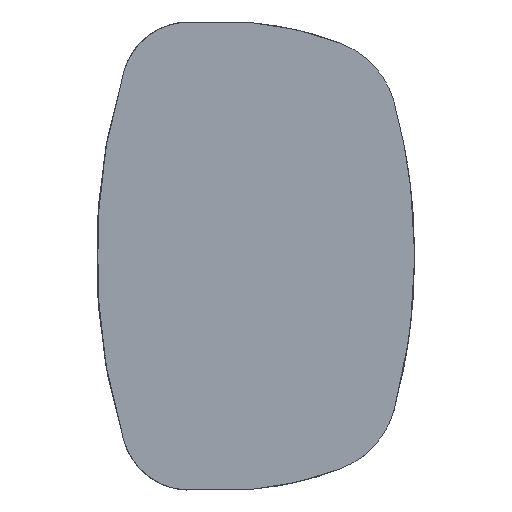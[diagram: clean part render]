
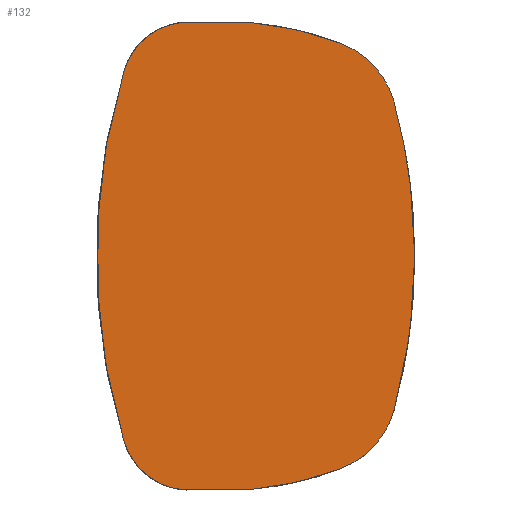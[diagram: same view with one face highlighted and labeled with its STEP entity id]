
A CAD part, top view. The second image highlights one B-rep face of the part: STEP entity #132.
In plain terms, the highlighted planar face has unit normal (0, 0, 1).
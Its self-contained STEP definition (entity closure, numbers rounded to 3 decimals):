
#132=ADVANCED_FACE('',(#402),#4258,.T.);
#402=FACE_OUTER_BOUND('',#672,.T.);
#672=EDGE_LOOP('',(#1019,#1020,#1021,#1022,#1023,#1024,#1025,#1026,#1027,
#1028,#1029));
#1019=ORIENTED_EDGE('',*,*,#2314,.T.);
#1020=ORIENTED_EDGE('',*,*,#2316,.T.);
#1021=ORIENTED_EDGE('',*,*,#2318,.T.);
#1022=ORIENTED_EDGE('',*,*,#2320,.T.);
#1023=ORIENTED_EDGE('',*,*,#2322,.T.);
#1024=ORIENTED_EDGE('',*,*,#2324,.T.);
#1025=ORIENTED_EDGE('',*,*,#2326,.T.);
#1026=ORIENTED_EDGE('',*,*,#2328,.T.);
#1027=ORIENTED_EDGE('',*,*,#2330,.T.);
#1028=ORIENTED_EDGE('',*,*,#2332,.T.);
#1029=ORIENTED_EDGE('',*,*,#2334,.T.);
#2314=EDGE_CURVE('',#3651,#3652,#3374,.T.);
#2316=EDGE_CURVE('',#3652,#3653,#3375,.T.);
#2318=EDGE_CURVE('',#3653,#3654,#3376,.T.);
#2320=EDGE_CURVE('',#3654,#3655,#3377,.T.);
#2322=EDGE_CURVE('',#3655,#3656,#3378,.T.);
#2324=EDGE_CURVE('',#3656,#3657,#3379,.T.);
#2326=EDGE_CURVE('',#3657,#3658,#3380,.T.);
#2328=EDGE_CURVE('',#3658,#3659,#3381,.T.);
#2330=EDGE_CURVE('',#3659,#3660,#3382,.T.);
#2332=EDGE_CURVE('',#3660,#3661,#3383,.T.);
#2334=EDGE_CURVE('',#3661,#3651,#3384,.T.);
#3374=(
BOUNDED_CURVE()
B_SPLINE_CURVE(2,(#4654,#4655,#4656),.UNSPECIFIED.,.F.,.F.)
B_SPLINE_CURVE_WITH_KNOTS((3,3),(-222.183,0.),.UNSPECIFIED.)
CURVE()
GEOMETRIC_REPRESENTATION_ITEM()
RATIONAL_B_SPLINE_CURVE((1.,0.991,1.))
REPRESENTATION_ITEM('')
);
#3375=(
BOUNDED_CURVE()
B_SPLINE_CURVE(2,(#4659,#4660,#4661),.UNSPECIFIED.,.F.,.F.)
B_SPLINE_CURVE_WITH_KNOTS((3,3),(-125.309,0.),.UNSPECIFIED.)
CURVE()
GEOMETRIC_REPRESENTATION_ITEM()
RATIONAL_B_SPLINE_CURVE((1.,0.891,1.))
REPRESENTATION_ITEM('')
);
#3376=(
BOUNDED_CURVE()
B_SPLINE_CURVE(2,(#4664,#4665,#4666),.UNSPECIFIED.,.F.,.F.)
B_SPLINE_CURVE_WITH_KNOTS((3,3),(-127.197,0.),.UNSPECIFIED.)
CURVE()
GEOMETRIC_REPRESENTATION_ITEM()
RATIONAL_B_SPLINE_CURVE((1.,0.991,1.))
REPRESENTATION_ITEM('')
);
#3377=(
BOUNDED_CURVE()
B_SPLINE_CURVE(2,(#4669,#4670,#4671),.UNSPECIFIED.,.F.,.F.)
B_SPLINE_CURVE_WITH_KNOTS((3,3),(-93.545,0.),.UNSPECIFIED.)
CURVE()
GEOMETRIC_REPRESENTATION_ITEM()
RATIONAL_B_SPLINE_CURVE((1.,0.998,1.))
REPRESENTATION_ITEM('')
);
#3378=(
BOUNDED_CURVE()
B_SPLINE_CURVE(2,(#4674,#4675,#4676),.UNSPECIFIED.,.F.,.F.)
B_SPLINE_CURVE_WITH_KNOTS((3,3),(-141.26,0.),.UNSPECIFIED.)
CURVE()
GEOMETRIC_REPRESENTATION_ITEM()
RATIONAL_B_SPLINE_CURVE((1.,0.804,1.))
REPRESENTATION_ITEM('')
);
#3379=(
BOUNDED_CURVE()
B_SPLINE_CURVE(2,(#4679,#4680,#4681,#4682,#4683),.UNSPECIFIED.,.F.,.F.)
B_SPLINE_CURVE_WITH_KNOTS((3,2,3),(-526.575,-263.288,0.),
 .UNSPECIFIED.)
CURVE()
GEOMETRIC_REPRESENTATION_ITEM()
RATIONAL_B_SPLINE_CURVE((1.,0.989,1.,0.989,1.))
REPRESENTATION_ITEM('')
);
#3380=(
BOUNDED_CURVE()
B_SPLINE_CURVE(2,(#4686,#4687,#4688),.UNSPECIFIED.,.F.,.F.)
B_SPLINE_CURVE_WITH_KNOTS((3,3),(-141.26,0.),.UNSPECIFIED.)
CURVE()
GEOMETRIC_REPRESENTATION_ITEM()
RATIONAL_B_SPLINE_CURVE((1.,0.804,1.))
REPRESENTATION_ITEM('')
);
#3381=(
BOUNDED_CURVE()
B_SPLINE_CURVE(2,(#4691,#4692,#4693),.UNSPECIFIED.,.F.,.F.)
B_SPLINE_CURVE_WITH_KNOTS((3,3),(-93.545,0.),.UNSPECIFIED.)
CURVE()
GEOMETRIC_REPRESENTATION_ITEM()
RATIONAL_B_SPLINE_CURVE((1.,0.998,1.))
REPRESENTATION_ITEM('')
);
#3382=(
BOUNDED_CURVE()
B_SPLINE_CURVE(2,(#4696,#4697,#4698),.UNSPECIFIED.,.F.,.F.)
B_SPLINE_CURVE_WITH_KNOTS((3,3),(-127.197,0.),.UNSPECIFIED.)
CURVE()
GEOMETRIC_REPRESENTATION_ITEM()
RATIONAL_B_SPLINE_CURVE((1.,0.991,1.))
REPRESENTATION_ITEM('')
);
#3383=(
BOUNDED_CURVE()
B_SPLINE_CURVE(2,(#4701,#4702,#4703),.UNSPECIFIED.,.F.,.F.)
B_SPLINE_CURVE_WITH_KNOTS((3,3),(-125.309,0.),.UNSPECIFIED.)
CURVE()
GEOMETRIC_REPRESENTATION_ITEM()
RATIONAL_B_SPLINE_CURVE((1.,0.891,1.))
REPRESENTATION_ITEM('')
);
#3384=(
BOUNDED_CURVE()
B_SPLINE_CURVE(2,(#4706,#4707,#4708),.UNSPECIFIED.,.F.,.F.)
B_SPLINE_CURVE_WITH_KNOTS((3,3),(-222.183,0.),.UNSPECIFIED.)
CURVE()
GEOMETRIC_REPRESENTATION_ITEM()
RATIONAL_B_SPLINE_CURVE((1.,0.991,1.))
REPRESENTATION_ITEM('')
);
#3651=VERTEX_POINT('',#4606);
#3652=VERTEX_POINT('',#4607);
#3653=VERTEX_POINT('',#4608);
#3654=VERTEX_POINT('',#4609);
#3655=VERTEX_POINT('',#4610);
#3656=VERTEX_POINT('',#4611);
#3657=VERTEX_POINT('',#4612);
#3658=VERTEX_POINT('',#4613);
#3659=VERTEX_POINT('',#4614);
#3660=VERTEX_POINT('',#4615);
#3661=VERTEX_POINT('',#4616);
#4258=PLANE('',#4358);
#4358=AXIS2_PLACEMENT_3D('',#4594,#4441,$);
#4441=DIRECTION('',(0.,0.,1.));
#4594=CARTESIAN_POINT('',(112.675,-374.679,-1077.619));
#4606=CARTESIAN_POINT('',(605.428,23.746,-1077.619));
#4607=CARTESIAN_POINT('',(576.111,241.974,-1077.619));
#4608=CARTESIAN_POINT('',(499.958,323.631,-1077.619));
#4609=CARTESIAN_POINT('',(377.166,352.069,-1077.619));
#4610=CARTESIAN_POINT('',(283.856,353.147,-1077.619));
#4611=CARTESIAN_POINT('',(195.639,281.512,-1077.619));
#4612=CARTESIAN_POINT('',(195.514,-233.821,-1077.619));
#4613=CARTESIAN_POINT('',(283.697,-305.499,-1077.619));
#4614=CARTESIAN_POINT('',(377.007,-304.466,-1077.619));
#4615=CARTESIAN_POINT('',(499.813,-276.087,-1077.619));
#4616=CARTESIAN_POINT('',(576.005,-194.467,-1077.619));
#4654=CARTESIAN_POINT('',(605.428,23.746,-1077.619));
#4655=CARTESIAN_POINT('',(605.49,134.838,-1077.619));
#4656=CARTESIAN_POINT('',(576.111,241.974,-1077.619));
#4659=CARTESIAN_POINT('',(576.111,241.974,-1077.619));
#4660=CARTESIAN_POINT('',(558.834,302.2,-1077.619));
#4661=CARTESIAN_POINT('',(499.958,323.631,-1077.619));
#4664=CARTESIAN_POINT('',(499.958,323.631,-1077.619));
#4665=CARTESIAN_POINT('',(440.492,346.181,-1077.619));
#4666=CARTESIAN_POINT('',(377.166,352.069,-1077.619));
#4669=CARTESIAN_POINT('',(377.166,352.069,-1077.619));
#4670=CARTESIAN_POINT('',(330.549,355.88,-1077.619));
#4671=CARTESIAN_POINT('',(283.856,353.147,-1077.619));
#4674=CARTESIAN_POINT('',(283.856,353.147,-1077.619));
#4675=CARTESIAN_POINT('',(213.301,349.898,-1077.619));
#4676=CARTESIAN_POINT('',(195.639,281.512,-1077.619));
#4679=CARTESIAN_POINT('',(195.639,281.512,-1077.619));
#4680=CARTESIAN_POINT('',(157.551,155.499,-1077.619));
#4681=CARTESIAN_POINT('',(157.739,23.855,-1077.619));
#4682=CARTESIAN_POINT('',(157.488,-107.789,-1077.619));
#4683=CARTESIAN_POINT('',(195.514,-233.821,-1077.619));
#4686=CARTESIAN_POINT('',(195.514,-233.821,-1077.619));
#4687=CARTESIAN_POINT('',(213.143,-302.215,-1077.619));
#4688=CARTESIAN_POINT('',(283.697,-305.499,-1077.619));
#4691=CARTESIAN_POINT('',(283.697,-305.499,-1077.619));
#4692=CARTESIAN_POINT('',(330.388,-308.254,-1077.619));
#4693=CARTESIAN_POINT('',(377.007,-304.466,-1077.619));
#4696=CARTESIAN_POINT('',(377.007,-304.466,-1077.619));
#4697=CARTESIAN_POINT('',(440.336,-298.608,-1077.619));
#4698=CARTESIAN_POINT('',(499.813,-276.087,-1077.619));
#4701=CARTESIAN_POINT('',(499.813,-276.087,-1077.619));
#4702=CARTESIAN_POINT('',(558.699,-254.684,-1077.619));
#4703=CARTESIAN_POINT('',(576.005,-194.467,-1077.619));
#4706=CARTESIAN_POINT('',(576.005,-194.467,-1077.619));
#4707=CARTESIAN_POINT('',(605.436,-87.345,-1077.619));
#4708=CARTESIAN_POINT('',(605.428,23.746,-1077.619));
